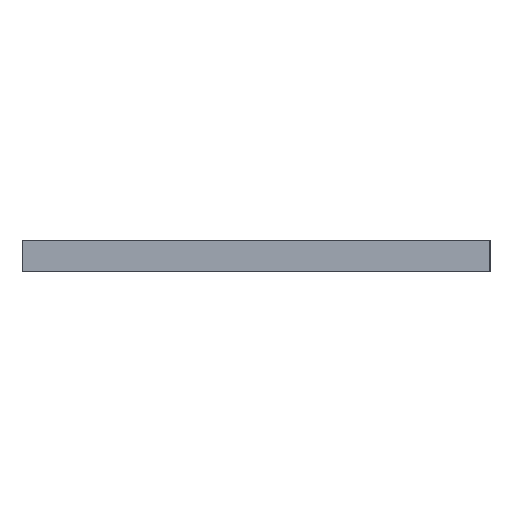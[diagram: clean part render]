
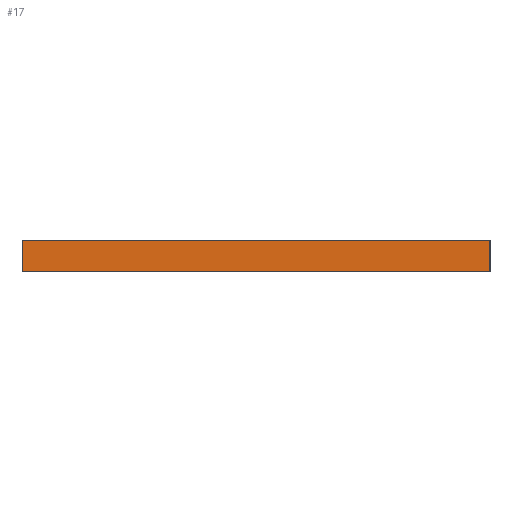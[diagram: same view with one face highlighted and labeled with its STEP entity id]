
A CAD part, left-side view. The second image highlights one B-rep face of the part: STEP entity #17.
In plain terms, the highlighted planar face has unit normal (-1, 0, 0).
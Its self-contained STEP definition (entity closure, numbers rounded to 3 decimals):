
#17 = ADVANCED_FACE('',(#18),#32,.F.);
#18 = FACE_BOUND('',#19,.F.);
#19 = EDGE_LOOP('',(#20,#55,#83,#111));
#20 = ORIENTED_EDGE('',*,*,#21,.F.);
#21 = EDGE_CURVE('',#22,#24,#26,.T.);
#22 = VERTEX_POINT('',#23);
#23 = CARTESIAN_POINT('',(-30.,-11.,0.));
#24 = VERTEX_POINT('',#25);
#25 = CARTESIAN_POINT('',(-30.,-11.,1.5));
#26 = SURFACE_CURVE('',#27,(#31,#43),.PCURVE_S1.);
#27 = LINE('',#28,#29);
#28 = CARTESIAN_POINT('',(-30.,-11.,0.));
#29 = VECTOR('',#30,1.);
#30 = DIRECTION('',(0.,0.,1.));
#31 = PCURVE('',#32,#37);
#32 = PLANE('',#33);
#33 = AXIS2_PLACEMENT_3D('',#34,#35,#36);
#34 = CARTESIAN_POINT('',(-30.,-11.,0.));
#35 = DIRECTION('',(1.,0.,0.));
#36 = DIRECTION('',(0.,0.,1.));
#37 = DEFINITIONAL_REPRESENTATION('',(#38),#42);
#38 = LINE('',#39,#40);
#39 = CARTESIAN_POINT('',(0.,0.));
#40 = VECTOR('',#41,1.);
#41 = DIRECTION('',(1.,0.));
#42 = ( GEOMETRIC_REPRESENTATION_CONTEXT(2) 
PARAMETRIC_REPRESENTATION_CONTEXT() REPRESENTATION_CONTEXT('2D SPACE',''
  ) );
#43 = PCURVE('',#44,#49);
#44 = PLANE('',#45);
#45 = AXIS2_PLACEMENT_3D('',#46,#47,#48);
#46 = CARTESIAN_POINT('',(-30.,-11.,0.));
#47 = DIRECTION('',(0.,1.,0.));
#48 = DIRECTION('',(0.,0.,1.));
#49 = DEFINITIONAL_REPRESENTATION('',(#50),#54);
#50 = LINE('',#51,#52);
#51 = CARTESIAN_POINT('',(0.,0.));
#52 = VECTOR('',#53,1.);
#53 = DIRECTION('',(1.,0.));
#54 = ( GEOMETRIC_REPRESENTATION_CONTEXT(2) 
PARAMETRIC_REPRESENTATION_CONTEXT() REPRESENTATION_CONTEXT('2D SPACE',''
  ) );
#55 = ORIENTED_EDGE('',*,*,#56,.T.);
#56 = EDGE_CURVE('',#22,#57,#59,.T.);
#57 = VERTEX_POINT('',#58);
#58 = CARTESIAN_POINT('',(-30.,11.,0.));
#59 = SURFACE_CURVE('',#60,(#64,#71),.PCURVE_S1.);
#60 = LINE('',#61,#62);
#61 = CARTESIAN_POINT('',(-30.,-11.,0.));
#62 = VECTOR('',#63,1.);
#63 = DIRECTION('',(0.,1.,0.));
#64 = PCURVE('',#32,#65);
#65 = DEFINITIONAL_REPRESENTATION('',(#66),#70);
#66 = LINE('',#67,#68);
#67 = CARTESIAN_POINT('',(0.,0.));
#68 = VECTOR('',#69,1.);
#69 = DIRECTION('',(0.,-1.));
#70 = ( GEOMETRIC_REPRESENTATION_CONTEXT(2) 
PARAMETRIC_REPRESENTATION_CONTEXT() REPRESENTATION_CONTEXT('2D SPACE',''
  ) );
#71 = PCURVE('',#72,#77);
#72 = PLANE('',#73);
#73 = AXIS2_PLACEMENT_3D('',#74,#75,#76);
#74 = CARTESIAN_POINT('',(-30.,-11.,0.));
#75 = DIRECTION('',(0.,0.,1.));
#76 = DIRECTION('',(1.,0.,0.));
#77 = DEFINITIONAL_REPRESENTATION('',(#78),#82);
#78 = LINE('',#79,#80);
#79 = CARTESIAN_POINT('',(0.,0.));
#80 = VECTOR('',#81,1.);
#81 = DIRECTION('',(0.,1.));
#82 = ( GEOMETRIC_REPRESENTATION_CONTEXT(2) 
PARAMETRIC_REPRESENTATION_CONTEXT() REPRESENTATION_CONTEXT('2D SPACE',''
  ) );
#83 = ORIENTED_EDGE('',*,*,#84,.T.);
#84 = EDGE_CURVE('',#57,#85,#87,.T.);
#85 = VERTEX_POINT('',#86);
#86 = CARTESIAN_POINT('',(-30.,11.,1.5));
#87 = SURFACE_CURVE('',#88,(#92,#99),.PCURVE_S1.);
#88 = LINE('',#89,#90);
#89 = CARTESIAN_POINT('',(-30.,11.,0.));
#90 = VECTOR('',#91,1.);
#91 = DIRECTION('',(0.,0.,1.));
#92 = PCURVE('',#32,#93);
#93 = DEFINITIONAL_REPRESENTATION('',(#94),#98);
#94 = LINE('',#95,#96);
#95 = CARTESIAN_POINT('',(0.,-22.));
#96 = VECTOR('',#97,1.);
#97 = DIRECTION('',(1.,0.));
#98 = ( GEOMETRIC_REPRESENTATION_CONTEXT(2) 
PARAMETRIC_REPRESENTATION_CONTEXT() REPRESENTATION_CONTEXT('2D SPACE',''
  ) );
#99 = PCURVE('',#100,#105);
#100 = PLANE('',#101);
#101 = AXIS2_PLACEMENT_3D('',#102,#103,#104);
#102 = CARTESIAN_POINT('',(-30.,11.,0.));
#103 = DIRECTION('',(0.,1.,0.));
#104 = DIRECTION('',(0.,0.,1.));
#105 = DEFINITIONAL_REPRESENTATION('',(#106),#110);
#106 = LINE('',#107,#108);
#107 = CARTESIAN_POINT('',(0.,0.));
#108 = VECTOR('',#109,1.);
#109 = DIRECTION('',(1.,0.));
#110 = ( GEOMETRIC_REPRESENTATION_CONTEXT(2) 
PARAMETRIC_REPRESENTATION_CONTEXT() REPRESENTATION_CONTEXT('2D SPACE',''
  ) );
#111 = ORIENTED_EDGE('',*,*,#112,.F.);
#112 = EDGE_CURVE('',#24,#85,#113,.T.);
#113 = SURFACE_CURVE('',#114,(#118,#125),.PCURVE_S1.);
#114 = LINE('',#115,#116);
#115 = CARTESIAN_POINT('',(-30.,-11.,1.5));
#116 = VECTOR('',#117,1.);
#117 = DIRECTION('',(0.,1.,0.));
#118 = PCURVE('',#32,#119);
#119 = DEFINITIONAL_REPRESENTATION('',(#120),#124);
#120 = LINE('',#121,#122);
#121 = CARTESIAN_POINT('',(1.5,0.));
#122 = VECTOR('',#123,1.);
#123 = DIRECTION('',(0.,-1.));
#124 = ( GEOMETRIC_REPRESENTATION_CONTEXT(2) 
PARAMETRIC_REPRESENTATION_CONTEXT() REPRESENTATION_CONTEXT('2D SPACE',''
  ) );
#125 = PCURVE('',#126,#131);
#126 = PLANE('',#127);
#127 = AXIS2_PLACEMENT_3D('',#128,#129,#130);
#128 = CARTESIAN_POINT('',(-30.,-11.,1.5));
#129 = DIRECTION('',(0.,0.,1.));
#130 = DIRECTION('',(1.,0.,0.));
#131 = DEFINITIONAL_REPRESENTATION('',(#132),#136);
#132 = LINE('',#133,#134);
#133 = CARTESIAN_POINT('',(0.,0.));
#134 = VECTOR('',#135,1.);
#135 = DIRECTION('',(0.,1.));
#136 = ( GEOMETRIC_REPRESENTATION_CONTEXT(2) 
PARAMETRIC_REPRESENTATION_CONTEXT() REPRESENTATION_CONTEXT('2D SPACE',''
  ) );
